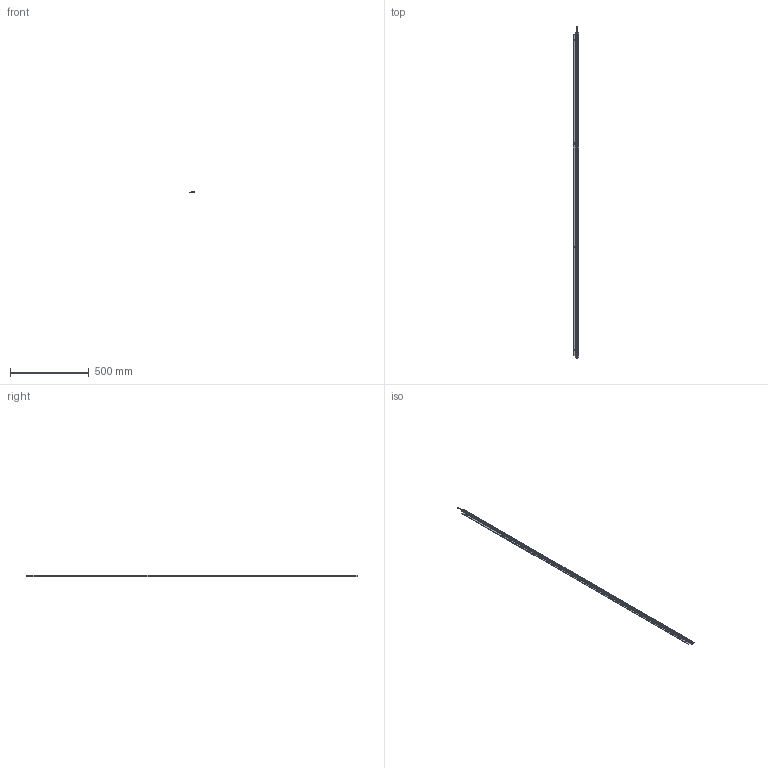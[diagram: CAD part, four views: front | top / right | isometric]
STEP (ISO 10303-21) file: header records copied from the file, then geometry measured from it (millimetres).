
FILE_DESCRIPTION (( 'STEP AP214' ), '1' );
FILE_NAME ('ILGA-L-K1-2070mm.STEP', '2026-04-24T23:07:50', ( '' ), ( '' ), 'SwSTEP 2.0', 'SolidWorks 2025', '' );
FILE_SCHEMA (( 'AUTOMOTIVE_DESIGN' ));
Length unit declared in the file: millimetre
Products named in the file (1): ILGA-L-K1-2070mm
Bounding box: 35 x 2110 x 10.7 mm (x, y, z)
Volume: 214696 mm3; surface area: 318648.2 mm2
Topology: 9 solids, 9 shells, 680 faces, 1768 edges, 1080 vertices
Faces by surface type: plane 293, cylinder 245, cone 60, torus 42, bspline 24, sphere 16
Entity records: 28575 total; most frequent: CARTESIAN_POINT 4429, DIRECTION 3606, ORIENTED_EDGE 3448, EDGE_CURVE 1724, AXIS2_PLACEMENT_3D 1345, VERTEX_POINT 1080, VECTOR 916, LINE 916
